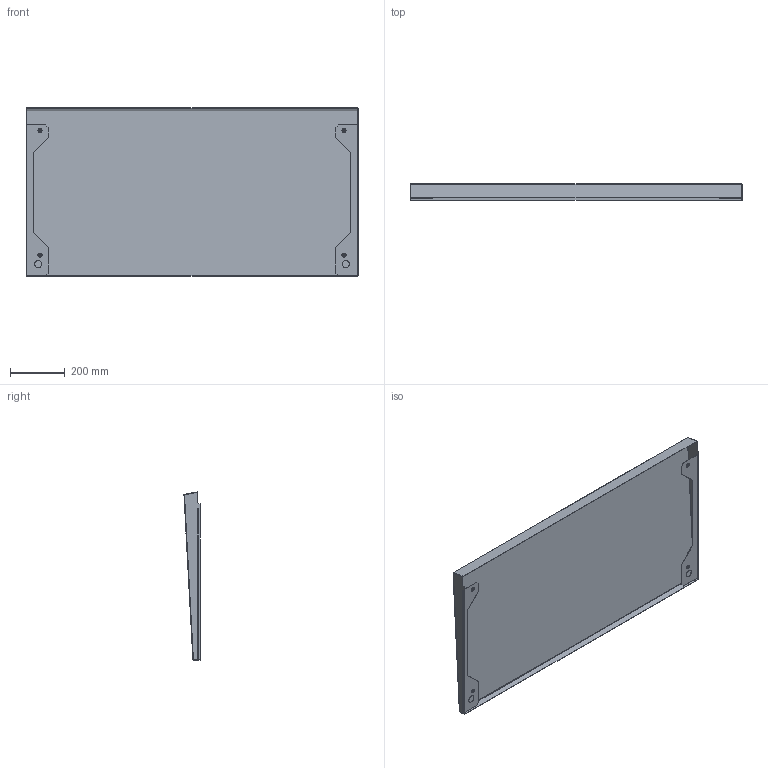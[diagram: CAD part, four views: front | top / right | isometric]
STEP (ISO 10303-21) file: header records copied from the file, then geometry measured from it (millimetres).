
FILE_DESCRIPTION (( 'STEP AP203' ), '1' );
FILE_NAME ('R 120.60 Cﾁ ﾊ鰀靍裲 鈞隆.STEP', '2012-11-21T04:29:28', ( 'system' ), ( '' ), 'SwSTEP 2.0', 'SolidWorks 2012', '' );
FILE_SCHEMA (( 'CONFIG_CONTROL_DESIGN' ));
Length unit declared in the file: millimetre
Products named in the file (1): R 120.60 Cﾁ ﾊ鰀靍裲 鈞隆
Bounding box: 1210 x 58.97 x 613.57 mm (x, y, z)
Volume: 1290127.5 mm3; surface area: 1849689.8 mm2
Topology: 5 solids, 5 shells, 152 faces, 354 edges, 224 vertices
Faces by surface type: cylinder 60, plane 60, torus 16, cone 8, sphere 8
Entity records: 4419 total; most frequent: DIRECTION 824, CARTESIAN_POINT 731, ORIENTED_EDGE 692, EDGE_CURVE 346, AXIS2_PLACEMENT_3D 329, VERTEX_POINT 220, EDGE_LOOP 188, CIRCLE 176
